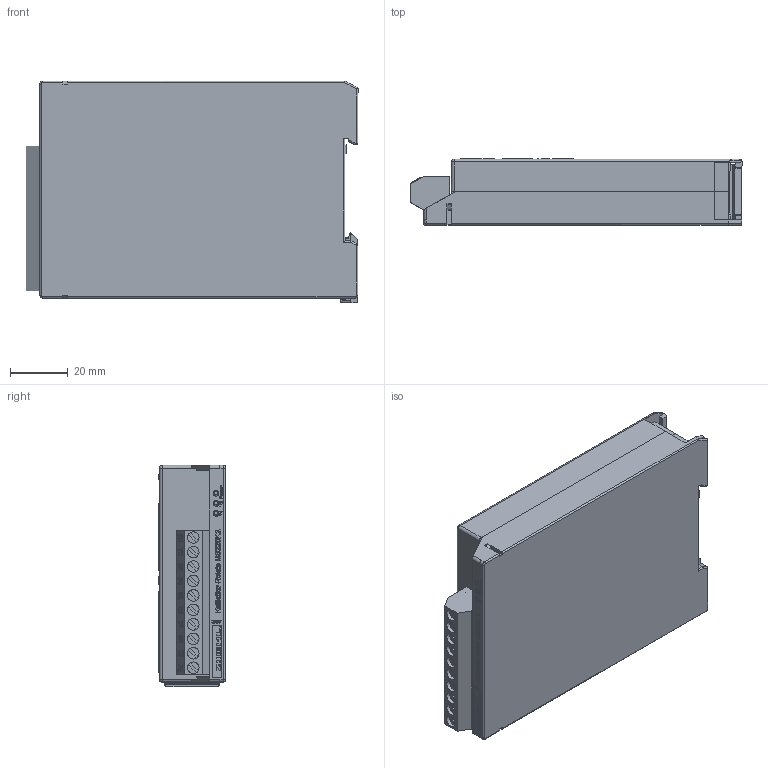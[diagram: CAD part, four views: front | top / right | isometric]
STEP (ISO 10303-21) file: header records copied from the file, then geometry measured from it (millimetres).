
FILE_DESCRIPTION (( 'STEP AP214' ), '1' );
FILE_NAME ('1148 1920_MSK2_2U_3D.STEP', '2014-06-04T13:17:11', ( '' ), ( '' ), 'SwSTEP 2.0', 'SolidWorks 2014', '' );
FILE_SCHEMA (( 'AUTOMOTIVE_DESIGN' ));
Length unit declared in the file: millimetre
Products named in the file (10): pan head cross recess screw_din_ISO 7045 - M3 x 4 - Z --- 4N; Kopie von K-Leiterpklatte 60 lang^1148 1920_MSK2_2U_3D; 1045 1920 K-Deckel; MSK2_schmal+LED; 1045 1940 K-UT_3D; 1148 1920_MSK2_2U_3D; K-Riegel; MS_Klemmen_3D; 31147110; 1148 1241 MS220K2_3D
Assembly tree (9 placements, depth 2):
  1148 1920_MSK2_2U_3D
    1045 1940 K-UT_3D
    MSK2_schmal+LED
    1045 1920 K-Deckel
    Kopie von K-Leiterpklatte 60 lang^1148 1920_MSK2_2U_3D
    pan head cross recess screw_din_ISO 7045 - M3 x 4 - Z --- 4N
    1148 1241 MS220K2_3D
    31147110
    MS_Klemmen_3D
    K-Riegel
Bounding box: 114.78 x 22.94 x 76.65 mm (x, y, z)
Volume: 50165.8 mm3; surface area: 63977.6 mm2
Topology: 259 solids, 259 shells, 3325 faces, 8075 edges, 5308 vertices
Faces by surface type: plane 2550, bspline 537, cylinder 170, cone 23, torus 23, sphere 22
Full cylindrical faces by diameter (mm): 1 x10, 1.5 x7, 2.8 x2, 3 x12, 3.1 x10, 3.6 x1, 4 x10, 4.2 x1, 5.6 x1, 6 x1, 6.8 x1, 7 x1, 7.2 x1, 9 x1
Entity records: 112873 total; most frequent: CARTESIAN_POINT 33314, ORIENTED_EDGE 15888, DIRECTION 12747, EDGE_CURVE 7944, LINE 6419, VECTOR 6419, VERTEX_POINT 5285, EDGE_LOOP 3643
